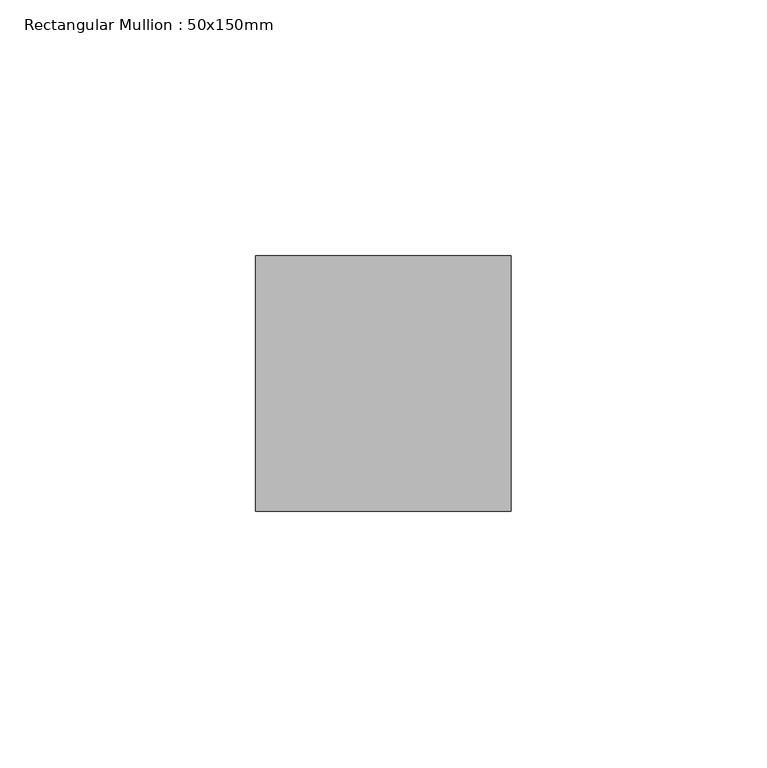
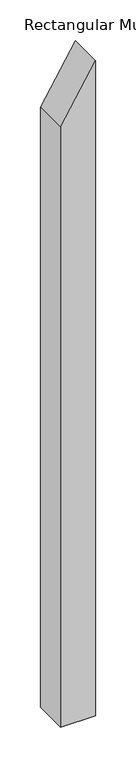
"""IFC4 building model written with IfcOpenShell, lengths in millimetres: member geometry, Rectangular Mullion : 50x150mm."""

from ifc_helpers import new_model, si_unit, frame, origin, place, context, project, spatial, polyline, outline, extrude, source, transform, mapped, element, save


def rectangular_mullion_50x150mm_2f168007(model_context):
    return source(origin(), model_context, "Body", "SweptSolid", [
        extrude(outline(polyline([(0.0, 0.0), (-82.8337645, -50.0), (-986.6627977, -50.0), (-986.6627977, 0.0), (0.0, 0.0)])), frame((0.0, -25.0, 0.0), z_axis=(0.0, 1.0, 0.0), x_axis=(0.0, 0.0, 1.0)), (0.0, 0.0, 1.0), 50.0),
    ])


if __name__ == "__main__":
    model = new_model("IFC4")
    model_context = context("Model", 3, world=origin())
    ifc_project = project(units=[si_unit("LENGTHUNIT", "METRE", prefix="MILLI")], contexts=[model_context])
    site = spatial("IfcSite", under=ifc_project)
    building = spatial("IfcBuilding", under=site)
    placement = place(None, origin())
    rectangular_mullion_50x150mm_shape = rectangular_mullion_50x150mm_2f168007(model_context)
    element("IfcMember", 1, ObjectType="Rectangular Mullion : 50x150mm", at=placement, inside=building, context=model_context, shape_type="MappedRepresentation", body=[
        mapped(rectangular_mullion_50x150mm_shape, transform((0.0, 0.0, 0.0), x_axis=(1.0, 0.0, 0.0), y_axis=(0.0, 1.0, 0.0), z_axis=(0.0, 0.0, 1.0))),
    ])
    save(model, "model.ifc")
